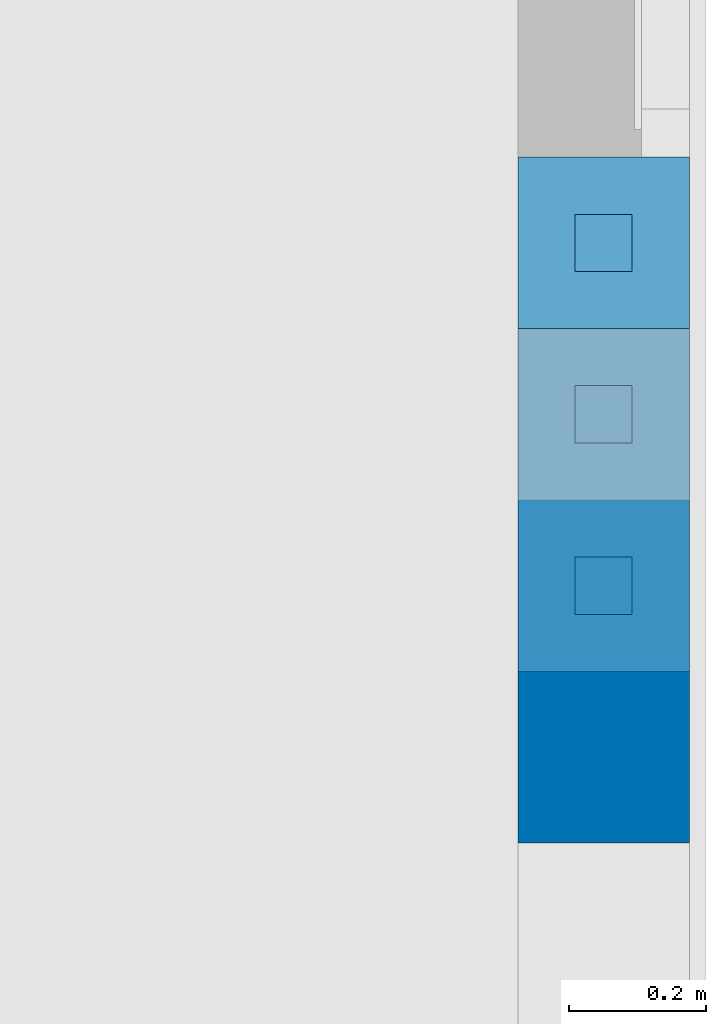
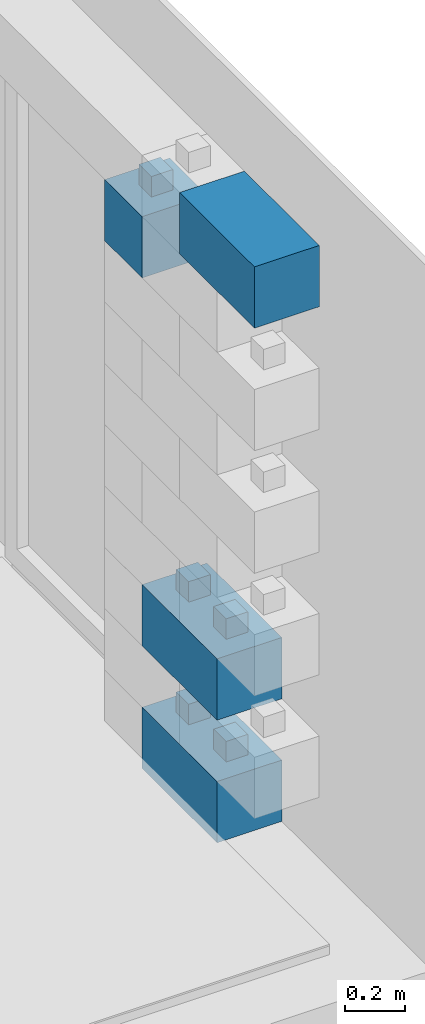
# One storey, part 4 of 8: 4 walls.
"""IFC4 building model written with IfcOpenShell, lengths in centimetres."""

from ifc_helpers import new_model, entity, si_unit, converted_unit, direction, frame, origin, place, context, subcontext, project, spatial, indexed_curve, outline, extrude, material, type_object, element, save


model = new_model("IFC4")

# Units and contexts
model_context = context("Model", 3, precision=0.001, world=origin(), true_north=direction((0.0, 1.0)))
body_context = subcontext(model_context, "Body", "Model", "MODEL_VIEW")
ifc_project = project(units=[si_unit("LENGTHUNIT", "METRE", prefix="CENTI"), si_unit("AREAUNIT", "SQUARE_METRE"), si_unit("VOLUMEUNIT", "CUBIC_METRE"), converted_unit("PLANEANGLEUNIT", "DEGREE", entity("IfcPlaneAngleMeasure", 0.017453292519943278), si_unit("PLANEANGLEUNIT", "RADIAN"), dimensions=[0, 0, 0, 0, 0, 0, 0])], contexts=[model_context])

# Site, building, storey
site_placement = place(None, origin())
site = spatial("IfcSite", under=ifc_project, at=site_placement, Name="Default", CompositionType="ELEMENT")
building_placement = place(site_placement, origin())
building = spatial("IfcBuilding", under=site, at=building_placement, CompositionType="ELEMENT")
storey_placement = place(building_placement, frame((0.0, 0.0, -4.0)))
storey = spatial("IfcBuildingStorey", under=building, at=storey_placement, Name="L00__ABOVE Slab", CompositionType="ELEMENT", Elevation=-4.000000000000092)

# Walls
ifc_material = material(Name="Miscellaneous__Timber Block__Triqbriq, X", Category="Miscellaneous")
wall_type_1 = type_object("IfcWallType", Name="Columns : wll_s__TIMBER BLOCK__Triqbriq, Full Width__wp : WS25", PredefinedType="SOLIDWALL", material=ifc_material)
wall_1_placement = place(storey_placement, frame((3156.828914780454, 2228.52003096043, 50.0), z_axis=(0.0, 0.0, 1.0), x_axis=(0.0, 1.0, 0.0)))
element("IfcWall", 1, at=wall_1_placement, inside=storey, type_object=wall_type_1, material=ifc_material, Name="Columns : wll_s__TIMBER BLOCK__Triqbriq, Full Width__wp : WS25", PredefinedType="SOLIDWALL", context=body_context, shape_type="SweptSolid", body=[
    extrude(outline(indexed_curve([(-4.166666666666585, -4.166666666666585), (4.166666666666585, -4.166666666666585), (4.166666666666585, 4.166666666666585), (-4.166666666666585, 4.166666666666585), (-4.166666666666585, -4.166666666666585)], self_intersect=False)), frame((12.500000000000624, -12.500000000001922, 16.666666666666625)), (0.0, 0.0, 1.0), 16.66666666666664),
    extrude(outline(indexed_curve([(-4.166666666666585, -4.166666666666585), (4.166666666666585, -4.166666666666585), (4.166666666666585, 4.166666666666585), (-4.166666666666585, 4.166666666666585), (-4.166666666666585, -4.166666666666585)], self_intersect=False)), frame((37.50000000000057, -12.500000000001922, 16.666666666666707)), (0.0, 0.0, 1.0), 16.66666666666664),
    extrude(outline(indexed_curve([(-4.166666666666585, -4.166666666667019), (4.166666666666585, -4.166666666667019), (4.166666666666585, 4.166666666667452), (-4.166666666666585, 4.166666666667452), (-4.166666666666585, -4.166666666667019)], self_intersect=False)), frame((4.166666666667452, -4.166666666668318, 8.333333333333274)), (0.0, 0.0, 1.0), 8.333333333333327),
    extrude(outline(indexed_curve([(-4.166666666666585, -4.166666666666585), (4.166666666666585, -4.166666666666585), (4.166666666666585, 4.166666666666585), (-4.166666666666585, 4.166666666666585), (-4.166666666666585, -4.166666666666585)], self_intersect=False)), frame((4.166666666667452, -20.833333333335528, 8.333333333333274)), (0.0, 0.0, 1.0), 8.333333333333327),
    extrude(outline(indexed_curve([(-4.166666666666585, -4.166666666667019), (4.166666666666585, -4.166666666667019), (4.166666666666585, 4.166666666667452), (-4.166666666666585, 4.166666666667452), (-4.166666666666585, -4.166666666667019)], self_intersect=False)), frame((45.833333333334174, -4.166666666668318, 8.333333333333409)), (0.0, 0.0, 1.0), 8.333333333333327),
    extrude(outline(indexed_curve([(-4.166666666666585, -4.166666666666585), (4.166666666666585, -4.166666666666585), (4.166666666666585, 4.166666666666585), (-4.166666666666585, 4.166666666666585), (-4.166666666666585, -4.166666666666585)], self_intersect=False)), frame((45.833333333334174, -20.833333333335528, 8.333333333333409)), (0.0, 0.0, 1.0), 8.333333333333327),
    extrude(outline(indexed_curve([(-8.33333333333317, -4.166666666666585), (8.333333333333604, -4.166666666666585), (8.333333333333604, 4.166666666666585), (-8.33333333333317, 4.166666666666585), (-8.33333333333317, -4.166666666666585)], self_intersect=False)), frame((25.0, -20.833333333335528, 8.333333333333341)), (0.0, 0.0, 1.0), 8.333333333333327),
    extrude(outline(indexed_curve([(-8.33333333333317, -4.166666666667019), (8.333333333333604, -4.166666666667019), (8.333333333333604, 4.166666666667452), (-8.33333333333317, 4.166666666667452), (-8.33333333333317, -4.166666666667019)], self_intersect=False)), frame((25.0, -4.166666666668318, 8.333333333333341)), (0.0, 0.0, 1.0), 8.333333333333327),
    extrude(outline(indexed_curve([(-24.999999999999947, -4.166666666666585), (24.999999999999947, -4.166666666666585), (24.999999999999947, 4.166666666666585), (-24.999999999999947, 4.166666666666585), (-24.999999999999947, -4.166666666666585)], self_intersect=False)), frame((25.0, -12.500000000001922, 8.333333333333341)), (0.0, 0.0, 1.0), 8.333333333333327),
    extrude(outline(indexed_curve([(-4.166666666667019, -12.50000000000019), (4.166666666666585, -12.50000000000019), (4.166666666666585, 12.500000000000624), (-4.166666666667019, 12.500000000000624), (-4.166666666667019, -12.50000000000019)], self_intersect=False)), frame((20.833333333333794, -12.500000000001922, 0.0)), (0.0, 0.0, 1.0), 8.333333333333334),
    extrude(outline(indexed_curve([(-4.166666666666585, -12.50000000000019), (4.166666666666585, -12.50000000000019), (4.166666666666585, 12.500000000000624), (-4.166666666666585, 12.500000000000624), (-4.166666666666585, -12.50000000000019)], self_intersect=False)), frame((29.166666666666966, -12.500000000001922, 0.0)), (0.0, 0.0, 1.0), 8.333333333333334),
    extrude(outline(indexed_curve([(-4.166666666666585, -12.50000000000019), (4.166666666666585, -12.50000000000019), (4.166666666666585, 12.500000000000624), (-4.166666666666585, 12.500000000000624), (-4.166666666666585, -12.50000000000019)], self_intersect=False)), frame((4.166666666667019, -12.500000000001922, 0.0)), (0.0, 0.0, 1.0), 8.333333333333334),
    extrude(outline(indexed_curve([(-4.166666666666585, -12.50000000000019), (4.166666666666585, -12.50000000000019), (4.166666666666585, 12.500000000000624), (-4.166666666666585, 12.500000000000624), (-4.166666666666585, -12.50000000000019)], self_intersect=False)), frame((45.83333333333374, -12.500000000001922, 0.0)), (0.0, 0.0, 1.0), 8.333333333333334),
    extrude(outline(indexed_curve([(-4.166666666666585, -4.166666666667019), (4.166666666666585, -4.166666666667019), (4.166666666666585, 4.166666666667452), (-4.166666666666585, 4.166666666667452), (-4.166666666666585, -4.166666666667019)], self_intersect=False)), frame((12.50000000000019, -4.166666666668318, 0.0)), (0.0, 0.0, 1.0), 24.999999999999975),
    extrude(outline(indexed_curve([(-4.166666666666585, -4.166666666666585), (4.166666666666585, -4.166666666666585), (4.166666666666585, 4.166666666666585), (-4.166666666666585, 4.166666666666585), (-4.166666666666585, -4.166666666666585)], self_intersect=False)), frame((12.50000000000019, -20.833333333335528, 0.0)), (0.0, 0.0, 1.0), 24.999999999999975),
    extrude(outline(indexed_curve([(-4.166666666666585, -4.166666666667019), (4.166666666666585, -4.166666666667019), (4.166666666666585, 4.166666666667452), (-4.166666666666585, 4.166666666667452), (-4.166666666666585, -4.166666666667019)], self_intersect=False)), frame((37.500000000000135, -4.166666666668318, 0.0)), (0.0, 0.0, 1.0), 24.999999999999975),
    extrude(outline(indexed_curve([(-4.166666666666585, -4.166666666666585), (4.166666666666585, -4.166666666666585), (4.166666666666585, 4.166666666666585), (-4.166666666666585, 4.166666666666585), (-4.166666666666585, -4.166666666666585)], self_intersect=False)), frame((37.500000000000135, -20.833333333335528, 0.0)), (0.0, 0.0, 1.0), 24.999999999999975),
    extrude(outline(indexed_curve([(-4.166666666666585, -12.50000000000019), (4.166666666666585, -12.50000000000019), (4.166666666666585, 12.500000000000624), (-4.166666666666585, 12.500000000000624), (-4.166666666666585, -12.50000000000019)], self_intersect=False)), frame((4.166666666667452, -12.500000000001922, 16.666666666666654)), (0.0, 0.0, 1.0), 8.333333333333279),
    extrude(outline(indexed_curve([(-4.166666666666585, -12.50000000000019), (4.166666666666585, -12.50000000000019), (4.166666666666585, 12.500000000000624), (-4.166666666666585, 12.500000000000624), (-4.166666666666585, -12.50000000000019)], self_intersect=False)), frame((20.833333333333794, -12.500000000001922, 16.666666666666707)), (0.0, 0.0, 1.0), 8.333333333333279),
    extrude(outline(indexed_curve([(-4.166666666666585, -12.50000000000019), (4.166666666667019, -12.50000000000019), (4.166666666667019, 12.500000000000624), (-4.166666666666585, 12.500000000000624), (-4.166666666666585, -12.50000000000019)], self_intersect=False)), frame((29.166666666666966, -12.500000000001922, 16.666666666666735)), (0.0, 0.0, 1.0), 8.333333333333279),
    extrude(outline(indexed_curve([(-4.166666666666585, -12.50000000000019), (4.166666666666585, -12.50000000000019), (4.166666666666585, 12.500000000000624), (-4.166666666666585, 12.500000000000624), (-4.166666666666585, -12.50000000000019)], self_intersect=False)), frame((45.833333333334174, -12.500000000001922, 16.66666666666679)), (0.0, 0.0, 1.0), 8.333333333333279),
])
wall_2_placement = place(storey_placement, frame((3156.828914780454, 2228.52003096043, 0.0), z_axis=(0.0, 0.0, 1.0), x_axis=(0.0, 1.0, 0.0)))
element("IfcWall", 2, at=wall_2_placement, inside=storey, type_object=wall_type_1, material=ifc_material, Name="Columns : wll_s__TIMBER BLOCK__Triqbriq, Full Width__wp : WS25", PredefinedType="SOLIDWALL", context=body_context, shape_type="SweptSolid", body=[
    extrude(outline(indexed_curve([(-4.166666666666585, -4.166666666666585), (4.166666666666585, -4.166666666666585), (4.166666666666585, 4.166666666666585), (-4.166666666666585, 4.166666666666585), (-4.166666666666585, -4.166666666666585)], self_intersect=False)), frame((12.500000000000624, -12.500000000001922, 16.666666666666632)), (0.0, 0.0, 1.0), 16.666666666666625),
    extrude(outline(indexed_curve([(-4.166666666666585, -4.166666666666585), (4.166666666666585, -4.166666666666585), (4.166666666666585, 4.166666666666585), (-4.166666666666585, 4.166666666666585), (-4.166666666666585, -4.166666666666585)], self_intersect=False)), frame((37.50000000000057, -12.500000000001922, 16.666666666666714)), (0.0, 0.0, 1.0), 16.666666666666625),
    extrude(outline(indexed_curve([(-4.166666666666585, -4.166666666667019), (4.166666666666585, -4.166666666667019), (4.166666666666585, 4.166666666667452), (-4.166666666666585, 4.166666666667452), (-4.166666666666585, -4.166666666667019)], self_intersect=False)), frame((4.166666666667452, -4.166666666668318, 8.333333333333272)), (0.0, 0.0, 1.0), 8.333333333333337),
    extrude(outline(indexed_curve([(-4.166666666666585, -4.166666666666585), (4.166666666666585, -4.166666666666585), (4.166666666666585, 4.166666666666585), (-4.166666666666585, 4.166666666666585), (-4.166666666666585, -4.166666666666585)], self_intersect=False)), frame((4.166666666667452, -20.833333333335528, 8.333333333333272)), (0.0, 0.0, 1.0), 8.333333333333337),
    extrude(outline(indexed_curve([(-4.166666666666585, -4.166666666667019), (4.166666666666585, -4.166666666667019), (4.166666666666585, 4.166666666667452), (-4.166666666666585, 4.166666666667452), (-4.166666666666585, -4.166666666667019)], self_intersect=False)), frame((45.833333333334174, -4.166666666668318, 8.333333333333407)), (0.0, 0.0, 1.0), 8.333333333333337),
    extrude(outline(indexed_curve([(-4.166666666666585, -4.166666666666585), (4.166666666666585, -4.166666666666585), (4.166666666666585, 4.166666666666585), (-4.166666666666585, 4.166666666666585), (-4.166666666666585, -4.166666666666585)], self_intersect=False)), frame((45.833333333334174, -20.833333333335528, 8.333333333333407)), (0.0, 0.0, 1.0), 8.333333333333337),
    extrude(outline(indexed_curve([(-8.33333333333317, -4.166666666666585), (8.333333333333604, -4.166666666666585), (8.333333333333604, 4.166666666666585), (-8.33333333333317, 4.166666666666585), (-8.33333333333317, -4.166666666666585)], self_intersect=False)), frame((25.0, -20.833333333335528, 8.33333333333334)), (0.0, 0.0, 1.0), 8.333333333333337),
    extrude(outline(indexed_curve([(-8.33333333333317, -4.166666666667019), (8.333333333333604, -4.166666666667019), (8.333333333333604, 4.166666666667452), (-8.33333333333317, 4.166666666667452), (-8.33333333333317, -4.166666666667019)], self_intersect=False)), frame((25.0, -4.166666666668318, 8.33333333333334)), (0.0, 0.0, 1.0), 8.333333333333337),
    extrude(outline(indexed_curve([(-24.999999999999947, -4.166666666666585), (24.999999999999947, -4.166666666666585), (24.999999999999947, 4.166666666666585), (-24.999999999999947, 4.166666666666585), (-24.999999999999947, -4.166666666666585)], self_intersect=False)), frame((25.0, -12.500000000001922, 8.33333333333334)), (0.0, 0.0, 1.0), 8.333333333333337),
    extrude(outline(indexed_curve([(-4.166666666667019, -12.50000000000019), (4.166666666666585, -12.50000000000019), (4.166666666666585, 12.500000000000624), (-4.166666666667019, 12.500000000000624), (-4.166666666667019, -12.50000000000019)], self_intersect=False)), frame((20.833333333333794, -12.500000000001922, 0.0)), (0.0, 0.0, 1.0), 8.333333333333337),
    extrude(outline(indexed_curve([(-4.166666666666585, -12.50000000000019), (4.166666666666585, -12.50000000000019), (4.166666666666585, 12.500000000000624), (-4.166666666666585, 12.500000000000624), (-4.166666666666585, -12.50000000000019)], self_intersect=False)), frame((29.166666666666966, -12.500000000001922, 0.0)), (0.0, 0.0, 1.0), 8.333333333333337),
    extrude(outline(indexed_curve([(-4.166666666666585, -12.50000000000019), (4.166666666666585, -12.50000000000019), (4.166666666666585, 12.500000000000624), (-4.166666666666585, 12.500000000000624), (-4.166666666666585, -12.50000000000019)], self_intersect=False)), frame((4.166666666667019, -12.500000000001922, 0.0)), (0.0, 0.0, 1.0), 8.333333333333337),
    extrude(outline(indexed_curve([(-4.166666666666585, -12.50000000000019), (4.166666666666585, -12.50000000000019), (4.166666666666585, 12.500000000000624), (-4.166666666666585, 12.500000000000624), (-4.166666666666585, -12.50000000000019)], self_intersect=False)), frame((45.83333333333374, -12.500000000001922, 0.0)), (0.0, 0.0, 1.0), 8.333333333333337),
    extrude(outline(indexed_curve([(-4.166666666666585, -4.166666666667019), (4.166666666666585, -4.166666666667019), (4.166666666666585, 4.166666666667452), (-4.166666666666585, 4.166666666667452), (-4.166666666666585, -4.166666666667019)], self_intersect=False)), frame((12.50000000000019, -4.166666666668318, 0.0)), (0.0, 0.0, 1.0), 24.99999999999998),
    extrude(outline(indexed_curve([(-4.166666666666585, -4.166666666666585), (4.166666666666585, -4.166666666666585), (4.166666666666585, 4.166666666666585), (-4.166666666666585, 4.166666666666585), (-4.166666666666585, -4.166666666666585)], self_intersect=False)), frame((12.50000000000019, -20.833333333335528, 0.0)), (0.0, 0.0, 1.0), 24.99999999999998),
    extrude(outline(indexed_curve([(-4.166666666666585, -4.166666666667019), (4.166666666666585, -4.166666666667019), (4.166666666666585, 4.166666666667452), (-4.166666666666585, 4.166666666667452), (-4.166666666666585, -4.166666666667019)], self_intersect=False)), frame((37.500000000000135, -4.166666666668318, 0.0)), (0.0, 0.0, 1.0), 24.99999999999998),
    extrude(outline(indexed_curve([(-4.166666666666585, -4.166666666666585), (4.166666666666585, -4.166666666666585), (4.166666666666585, 4.166666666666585), (-4.166666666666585, 4.166666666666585), (-4.166666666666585, -4.166666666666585)], self_intersect=False)), frame((37.500000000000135, -20.833333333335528, 0.0)), (0.0, 0.0, 1.0), 24.99999999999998),
    extrude(outline(indexed_curve([(-4.166666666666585, -12.50000000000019), (4.166666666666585, -12.50000000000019), (4.166666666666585, 12.500000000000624), (-4.166666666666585, 12.500000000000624), (-4.166666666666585, -12.50000000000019)], self_intersect=False)), frame((4.166666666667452, -12.500000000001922, 16.666666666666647)), (0.0, 0.0, 1.0), 8.333333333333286),
    extrude(outline(indexed_curve([(-4.166666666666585, -12.50000000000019), (4.166666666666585, -12.50000000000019), (4.166666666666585, 12.500000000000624), (-4.166666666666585, 12.500000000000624), (-4.166666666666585, -12.50000000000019)], self_intersect=False)), frame((20.833333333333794, -12.500000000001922, 16.6666666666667)), (0.0, 0.0, 1.0), 8.333333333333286),
    extrude(outline(indexed_curve([(-4.166666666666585, -12.50000000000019), (4.166666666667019, -12.50000000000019), (4.166666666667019, 12.500000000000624), (-4.166666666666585, 12.500000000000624), (-4.166666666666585, -12.50000000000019)], self_intersect=False)), frame((29.166666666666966, -12.500000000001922, 16.66666666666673)), (0.0, 0.0, 1.0), 8.333333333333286),
    extrude(outline(indexed_curve([(-4.166666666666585, -12.50000000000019), (4.166666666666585, -12.50000000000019), (4.166666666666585, 12.500000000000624), (-4.166666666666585, 12.500000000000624), (-4.166666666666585, -12.50000000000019)], self_intersect=False)), frame((45.833333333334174, -12.500000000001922, 16.66666666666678)), (0.0, 0.0, 1.0), 8.333333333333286),
])
wall_3_placement = place(storey_placement, frame((3156.8289147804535, 2203.5200309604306, 225.0), z_axis=(0.0, 0.0, 1.0), x_axis=(0.0, 1.0, 0.0)))
element("IfcWall", 3, at=wall_3_placement, inside=storey, type_object=wall_type_1, material=ifc_material, Name="Columns : wll_s__TIMBER BLOCK__Triqbriq, Full Width__wp : WS25", PredefinedType="SOLIDWALL", context=body_context, shape_type="SweptSolid", body=[
    extrude(outline(indexed_curve([(-4.166666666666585, -4.166666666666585), (4.166666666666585, -4.166666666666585), (4.166666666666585, 4.166666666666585), (-4.166666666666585, 4.166666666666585), (-4.166666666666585, -4.166666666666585)], self_intersect=False)), frame((12.500000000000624, -12.500000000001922, 16.66666666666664)), (0.0, 0.0, 1.0), 8.33333333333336),
    extrude(outline(indexed_curve([(-4.166666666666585, -4.166666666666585), (4.166666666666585, -4.166666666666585), (4.166666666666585, 4.166666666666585), (-4.166666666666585, 4.166666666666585), (-4.166666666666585, -4.166666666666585)], self_intersect=False)), frame((37.50000000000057, -12.500000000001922, 16.666666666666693)), (0.0, 0.0, 1.0), 8.333333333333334),
    extrude(outline(indexed_curve([(-4.166666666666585, -4.166666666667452), (4.166666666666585, -4.166666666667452), (4.166666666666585, 4.166666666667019), (-4.166666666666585, 4.166666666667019), (-4.166666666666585, -4.166666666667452)], self_intersect=False)), frame((4.166666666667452, -4.166666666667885, 8.333333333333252)), (0.0, 0.0, 1.0), 8.333333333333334),
    extrude(outline(indexed_curve([(-4.166666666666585, -4.166666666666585), (4.166666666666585, -4.166666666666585), (4.166666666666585, 4.166666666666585), (-4.166666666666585, 4.166666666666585), (-4.166666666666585, -4.166666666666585)], self_intersect=False)), frame((4.166666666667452, -20.833333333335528, 8.333333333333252)), (0.0, 0.0, 1.0), 8.333333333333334),
    extrude(outline(indexed_curve([(-4.166666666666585, -4.166666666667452), (4.166666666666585, -4.166666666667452), (4.166666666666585, 4.166666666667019), (-4.166666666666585, 4.166666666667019), (-4.166666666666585, -4.166666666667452)], self_intersect=False)), frame((45.833333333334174, -4.166666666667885, 8.333333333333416)), (0.0, 0.0, 1.0), 8.333333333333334),
    extrude(outline(indexed_curve([(-4.166666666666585, -4.166666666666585), (4.166666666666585, -4.166666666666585), (4.166666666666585, 4.166666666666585), (-4.166666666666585, 4.166666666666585), (-4.166666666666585, -4.166666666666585)], self_intersect=False)), frame((45.833333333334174, -20.833333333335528, 8.333333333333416)), (0.0, 0.0, 1.0), 8.333333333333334),
    extrude(outline(indexed_curve([(-8.33333333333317, -4.166666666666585), (8.333333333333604, -4.166666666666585), (8.333333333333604, 4.166666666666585), (-8.33333333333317, 4.166666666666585), (-8.33333333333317, -4.166666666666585)], self_intersect=False)), frame((25.0, -20.833333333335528, 8.33333333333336)), (0.0, 0.0, 1.0), 8.333333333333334),
    extrude(outline(indexed_curve([(-8.33333333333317, -4.166666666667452), (8.333333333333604, -4.166666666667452), (8.333333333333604, 4.166666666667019), (-8.33333333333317, 4.166666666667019), (-8.33333333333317, -4.166666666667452)], self_intersect=False)), frame((25.0, -4.166666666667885, 8.33333333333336)), (0.0, 0.0, 1.0), 8.333333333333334),
    extrude(outline(indexed_curve([(-24.999999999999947, -4.166666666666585), (24.999999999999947, -4.166666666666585), (24.999999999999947, 4.166666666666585), (-24.999999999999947, 4.166666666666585), (-24.999999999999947, -4.166666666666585)], self_intersect=False)), frame((25.0, -12.500000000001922, 8.333333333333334)), (0.0, 0.0, 1.0), 8.333333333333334),
    extrude(outline(indexed_curve([(-4.166666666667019, -12.50000000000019), (4.166666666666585, -12.50000000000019), (4.166666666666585, 12.500000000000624), (-4.166666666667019, 12.500000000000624), (-4.166666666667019, -12.50000000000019)], self_intersect=False)), frame((20.833333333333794, -12.500000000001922, 0.0)), (0.0, 0.0, 1.0), 8.333333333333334),
    extrude(outline(indexed_curve([(-4.166666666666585, -12.50000000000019), (4.166666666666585, -12.50000000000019), (4.166666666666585, 12.500000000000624), (-4.166666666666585, 12.500000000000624), (-4.166666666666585, -12.50000000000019)], self_intersect=False)), frame((29.166666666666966, -12.500000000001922, 0.0)), (0.0, 0.0, 1.0), 8.333333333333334),
    extrude(outline(indexed_curve([(-4.166666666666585, -12.50000000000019), (4.166666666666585, -12.50000000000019), (4.166666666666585, 12.500000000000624), (-4.166666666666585, 12.500000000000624), (-4.166666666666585, -12.50000000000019)], self_intersect=False)), frame((4.166666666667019, -12.500000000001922, 0.0)), (0.0, 0.0, 1.0), 8.333333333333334),
    extrude(outline(indexed_curve([(-4.166666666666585, -12.50000000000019), (4.166666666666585, -12.50000000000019), (4.166666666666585, 12.500000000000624), (-4.166666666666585, 12.500000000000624), (-4.166666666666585, -12.50000000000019)], self_intersect=False)), frame((45.83333333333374, -12.500000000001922, 0.0)), (0.0, 0.0, 1.0), 8.333333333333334),
    extrude(outline(indexed_curve([(-4.166666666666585, -4.166666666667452), (4.166666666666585, -4.166666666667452), (4.166666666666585, 4.166666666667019), (-4.166666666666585, 4.166666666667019), (-4.166666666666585, -4.166666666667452)], self_intersect=False)), frame((12.50000000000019, -4.166666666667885, 0.0)), (0.0, 0.0, 1.0), 24.999999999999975),
    extrude(outline(indexed_curve([(-4.166666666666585, -4.166666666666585), (4.166666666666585, -4.166666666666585), (4.166666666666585, 4.166666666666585), (-4.166666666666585, 4.166666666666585), (-4.166666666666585, -4.166666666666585)], self_intersect=False)), frame((12.50000000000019, -20.833333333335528, 0.0)), (0.0, 0.0, 1.0), 24.999999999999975),
    extrude(outline(indexed_curve([(-4.166666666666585, -4.166666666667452), (4.166666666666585, -4.166666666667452), (4.166666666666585, 4.166666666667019), (-4.166666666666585, 4.166666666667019), (-4.166666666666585, -4.166666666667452)], self_intersect=False)), frame((37.500000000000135, -4.166666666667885, 0.0)), (0.0, 0.0, 1.0), 24.999999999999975),
    extrude(outline(indexed_curve([(-4.166666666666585, -4.166666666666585), (4.166666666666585, -4.166666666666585), (4.166666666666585, 4.166666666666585), (-4.166666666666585, 4.166666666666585), (-4.166666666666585, -4.166666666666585)], self_intersect=False)), frame((37.500000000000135, -20.833333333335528, 0.0)), (0.0, 0.0, 1.0), 24.999999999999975),
    extrude(outline(indexed_curve([(-4.166666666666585, -12.50000000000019), (4.166666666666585, -12.50000000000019), (4.166666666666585, 12.500000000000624), (-4.166666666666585, 12.500000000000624), (-4.166666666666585, -12.50000000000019)], self_intersect=False)), frame((4.166666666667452, -12.500000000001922, 16.66666666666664)), (0.0, 0.0, 1.0), 8.333333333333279),
    extrude(outline(indexed_curve([(-4.166666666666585, -12.50000000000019), (4.166666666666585, -12.50000000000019), (4.166666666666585, 12.500000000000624), (-4.166666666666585, 12.500000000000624), (-4.166666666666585, -12.50000000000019)], self_intersect=False)), frame((20.833333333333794, -12.500000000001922, 16.666666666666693)), (0.0, 0.0, 1.0), 8.333333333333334),
    extrude(outline(indexed_curve([(-4.166666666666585, -12.50000000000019), (4.166666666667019, -12.50000000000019), (4.166666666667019, 12.500000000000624), (-4.166666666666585, 12.500000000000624), (-4.166666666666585, -12.50000000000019)], self_intersect=False)), frame((29.166666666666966, -12.500000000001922, 16.66666666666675)), (0.0, 0.0, 1.0), 8.333333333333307),
    extrude(outline(indexed_curve([(-4.166666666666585, -12.50000000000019), (4.166666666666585, -12.50000000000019), (4.166666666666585, 12.500000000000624), (-4.166666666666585, 12.500000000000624), (-4.166666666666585, -12.50000000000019)], self_intersect=False)), frame((45.833333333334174, -12.500000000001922, 16.666666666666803)), (0.0, 0.0, 1.0), 8.333333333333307),
])
wall_type_2 = type_object("IfcWallType", Name="Columns : wll_s__TIMBER BLOCK__Triqbriq, Half Width__wp : WS25", PredefinedType="SOLIDWALL", material=ifc_material)
wall_4_placement = place(storey_placement, frame((3156.8289147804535, 2278.520030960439, 200.0)))
element("IfcWall", 4, at=wall_4_placement, inside=storey, type_object=wall_type_2, material=ifc_material, Name="Columns : wll_s__TIMBER BLOCK__Triqbriq, Half Width__wp : WS25", PredefinedType="SOLIDWALL", context=body_context, shape_type="SweptSolid", body=[
    extrude(outline(indexed_curve([(-4.166666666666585, -4.166666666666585), (4.166666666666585, -4.166666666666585), (4.166666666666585, 4.166666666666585), (-4.166666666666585, 4.166666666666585), (-4.166666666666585, -4.166666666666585)], self_intersect=False)), frame((12.500000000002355, 12.50000000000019, 16.66666666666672), z_axis=(0.0, 0.0, 1.0), x_axis=(0.0, 1.0, 0.0)), (0.0, 0.0, 1.0), 16.66666666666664),
    extrude(outline(indexed_curve([(-4.166666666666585, -4.166666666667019), (4.166666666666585, -4.166666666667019), (4.166666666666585, 4.166666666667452), (-4.166666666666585, 4.166666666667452), (-4.166666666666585, -4.166666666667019)], self_intersect=False)), frame((4.1666666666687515, 20.833333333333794, 8.333333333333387), z_axis=(0.0, 0.0, 1.0), x_axis=(0.0, 1.0, 0.0)), (0.0, 0.0, 1.0), 8.333333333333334),
    extrude(outline(indexed_curve([(-4.166666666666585, -4.166666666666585), (4.166666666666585, -4.166666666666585), (4.166666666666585, 4.166666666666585), (-4.166666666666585, 4.166666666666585), (-4.166666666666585, -4.166666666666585)], self_intersect=False)), frame((20.83333333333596, 20.833333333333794, 8.333333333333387), z_axis=(0.0, 0.0, 1.0), x_axis=(0.0, 1.0, 0.0)), (0.0, 0.0, 1.0), 8.333333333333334),
    extrude(outline(indexed_curve([(-4.166666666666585, -4.166666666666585), (4.166666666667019, -4.166666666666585), (4.166666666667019, 4.166666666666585), (-4.166666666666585, 4.166666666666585), (-4.166666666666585, -4.166666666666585)], self_intersect=False)), frame((20.83333333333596, 4.166666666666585, 8.333333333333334), z_axis=(0.0, 0.0, 1.0), x_axis=(0.0, 1.0, 0.0)), (0.0, 0.0, 1.0), 8.333333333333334),
    extrude(outline(indexed_curve([(-4.166666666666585, -4.166666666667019), (4.166666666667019, -4.166666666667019), (4.166666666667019, 4.166666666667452), (-4.166666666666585, 4.166666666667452), (-4.166666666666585, -4.166666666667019)], self_intersect=False)), frame((4.1666666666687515, 4.166666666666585, 8.333333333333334), z_axis=(0.0, 0.0, 1.0), x_axis=(0.0, 1.0, 0.0)), (0.0, 0.0, 1.0), 8.333333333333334),
    extrude(outline(indexed_curve([(-12.50000000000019, -4.166666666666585), (12.50000000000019, -4.166666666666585), (12.50000000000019, 4.166666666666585), (-12.50000000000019, 4.166666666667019), (-12.50000000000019, -4.166666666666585)], self_intersect=False)), frame((12.500000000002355, 12.50000000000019, 8.333333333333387), z_axis=(0.0, 0.0, 1.0), x_axis=(0.0, 1.0, 0.0)), (0.0, 0.0, 1.0), 8.333333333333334),
    extrude(outline(indexed_curve([(-4.166666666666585, -12.50000000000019), (4.166666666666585, -12.50000000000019), (4.166666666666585, 12.500000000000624), (-4.166666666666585, 12.500000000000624), (-4.166666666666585, -12.50000000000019)], self_intersect=False)), frame((12.500000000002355, 4.166666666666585, 0.0), z_axis=(0.0, 0.0, 1.0), x_axis=(0.0, 1.0, 0.0)), (0.0, 0.0, 1.0), 8.333333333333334),
    extrude(outline(indexed_curve([(-4.166666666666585, -12.50000000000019), (4.166666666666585, -12.50000000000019), (4.166666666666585, 12.500000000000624), (-4.166666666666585, 12.500000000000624), (-4.166666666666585, -12.50000000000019)], self_intersect=False)), frame((12.500000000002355, 20.83333333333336, 0.0), z_axis=(0.0, 0.0, 1.0), x_axis=(0.0, 1.0, 0.0)), (0.0, 0.0, 1.0), 8.333333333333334),
    extrude(outline(indexed_curve([(-4.166666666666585, -4.166666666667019), (4.166666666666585, -4.166666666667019), (4.166666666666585, 4.166666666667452), (-4.166666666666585, 4.166666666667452), (-4.166666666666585, -4.166666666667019)], self_intersect=False)), frame((4.1666666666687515, 12.499999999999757, 0.0), z_axis=(0.0, 0.0, 1.0), x_axis=(0.0, 1.0, 0.0)), (0.0, 0.0, 1.0), 24.999999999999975),
    extrude(outline(indexed_curve([(-4.166666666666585, -4.166666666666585), (4.166666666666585, -4.166666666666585), (4.166666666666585, 4.166666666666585), (-4.166666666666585, 4.166666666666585), (-4.166666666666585, -4.166666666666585)], self_intersect=False)), frame((20.83333333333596, 12.499999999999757, 0.0), z_axis=(0.0, 0.0, 1.0), x_axis=(0.0, 1.0, 0.0)), (0.0, 0.0, 1.0), 24.999999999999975),
    extrude(outline(indexed_curve([(-4.166666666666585, -12.50000000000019), (4.166666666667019, -12.50000000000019), (4.166666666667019, 12.500000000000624), (-4.166666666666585, 12.500000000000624), (-4.166666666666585, -12.50000000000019)], self_intersect=False)), frame((12.500000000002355, 4.166666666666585, 16.66666666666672), z_axis=(0.0, 0.0, 1.0), x_axis=(0.0, 1.0, 0.0)), (0.0, 0.0, 1.0), 8.333333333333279),
    extrude(outline(indexed_curve([(-4.166666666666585, -12.50000000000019), (4.166666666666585, -12.50000000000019), (4.166666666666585, 12.500000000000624), (-4.166666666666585, 12.500000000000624), (-4.166666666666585, -12.50000000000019)], self_intersect=False)), frame((12.500000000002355, 20.833333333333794, 16.666666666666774), z_axis=(0.0, 0.0, 1.0), x_axis=(0.0, 1.0, 0.0)), (0.0, 0.0, 1.0), 8.333333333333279),
])

save(model, "model.ifc")
